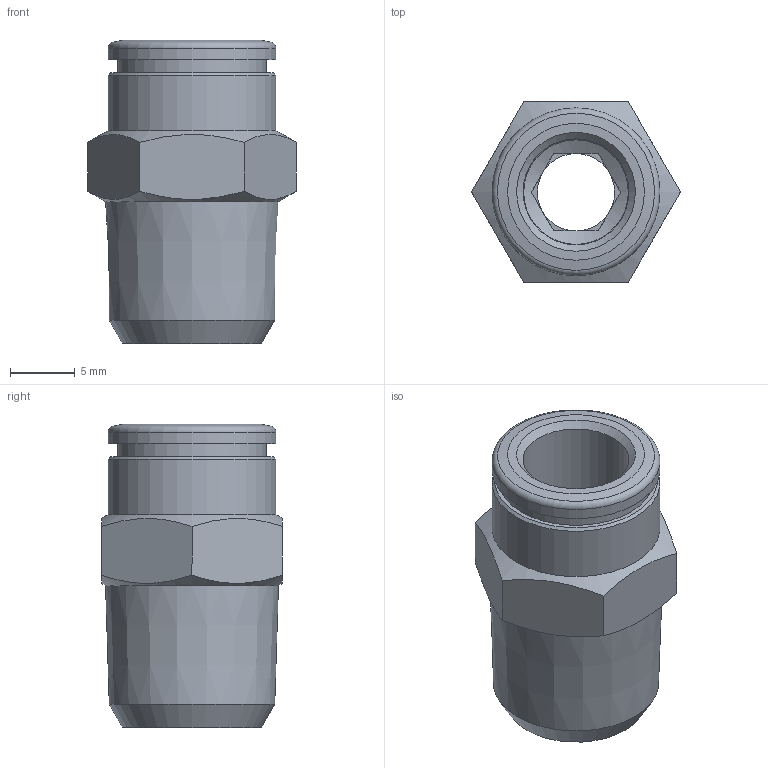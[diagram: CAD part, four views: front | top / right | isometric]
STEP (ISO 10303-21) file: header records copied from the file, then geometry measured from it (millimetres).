
FILE_DESCRIPTION(/* description */ (''),/* implementation_level */ '2;1');
FILE_NAME(/* name */ '200157-ES_STX01K_8_R14_19.05.16',/* time_stamp */ '2016-05-19T10:56:48+02:00',/* author */ (''),/* organization */ (''),/* preprocessor_version */ 'ST-DEVELOPER v14',/* originating_system */ 'HiCAD 2013 1802.4 Build 509',/* authorisation */ '');
FILE_SCHEMA (('AUTOMOTIVE_DESIGN { 1 0 10303 214 1 1 1 1 }'));
Length unit declared in the file: millimetre
Products named in the file (3): Root; R200157-ES-N1; DR8-1_NEU
Assembly tree (2 placements, depth 2):
  Root
    R200157-ES-N1
    DR8-1_NEU
Bounding box: 16.17 x 14 x 23.5 mm (x, y, z)
Volume: 1884.7 mm3; surface area: 2384.6 mm2
Topology: 2 solids, 2 shells, 47 faces, 103 edges, 62 vertices
Faces by surface type: plane 24, cone 13, cylinder 9, torus 1
Full cylindrical faces by diameter (mm): 6 x1, 8.1 x1, 8.2 x1, 10.1 x1, 11 x1, 11.5 x1, 11.6 x1, 13 x2
Entity records: 2002 total; most frequent: DIRECTION 228, CARTESIAN_POINT 183, PRESENTATION_STYLE_ASSIGNMENT 160, OVER_RIDING_STYLED_ITEM 158, COLOUR_RGB 152, DRAUGHTING_PRE_DEFINED_CURVE_FONT 150, CURVE_STYLE 150, ORIENTED_EDGE 150
